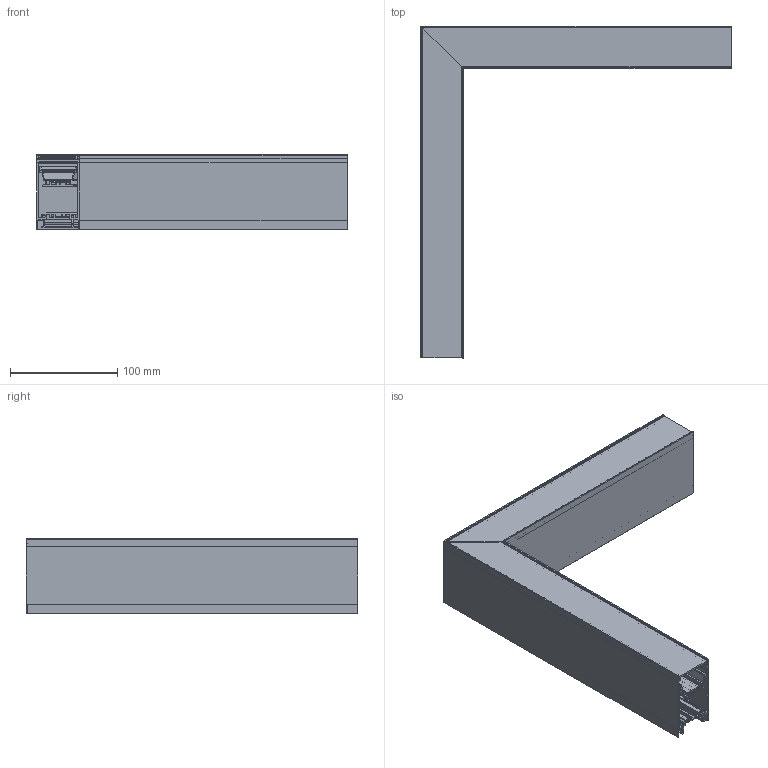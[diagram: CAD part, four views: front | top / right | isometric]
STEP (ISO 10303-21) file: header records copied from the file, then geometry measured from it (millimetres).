
FILE_DESCRIPTION(/* description */ (''),/* implementation_level */ '2;1');
FILE_NAME(/* name */ 'C:\Users\FrancoSartori\Documents\FARO\01_En Proceso\0000_2022\000_PRO\00_VIA EVOLUTION\01_RFA_3D_Trabajo\LSHAPE_WL\LSHAPE_WL.stp',/* time_stamp */ '2022-08-03T09:50:35+02:00',/* author */ ('FrancoSartori'),/* organization */ (''),/* preprocessor_version */ 'ST-DEVELOPER v19',/* originating_system */ 'AutoCAD Mechanical',/* authorisation */ '');
FILE_SCHEMA (('AUTOMOTIVE_DESIGN { 1 0 10303 214 3 1 1 }'));
Length unit declared in the file: millimetre
Products named in the file (1): Product
Bounding box: 290 x 310 x 70 mm (x, y, z)
Volume: 260324.1 mm3; surface area: 403042.6 mm2
Topology: 4 solids, 4 shells, 336 faces, 984 edges, 656 vertices
Faces by surface type: plane 268, cylinder 68
Entity records: 11080 total; most frequent: CARTESIAN_POINT 1977, ORIENTED_EDGE 1968, DIRECTION 1794, EDGE_CURVE 984, LINE 848, VECTOR 848, VERTEX_POINT 656, AXIS2_PLACEMENT_3D 473
